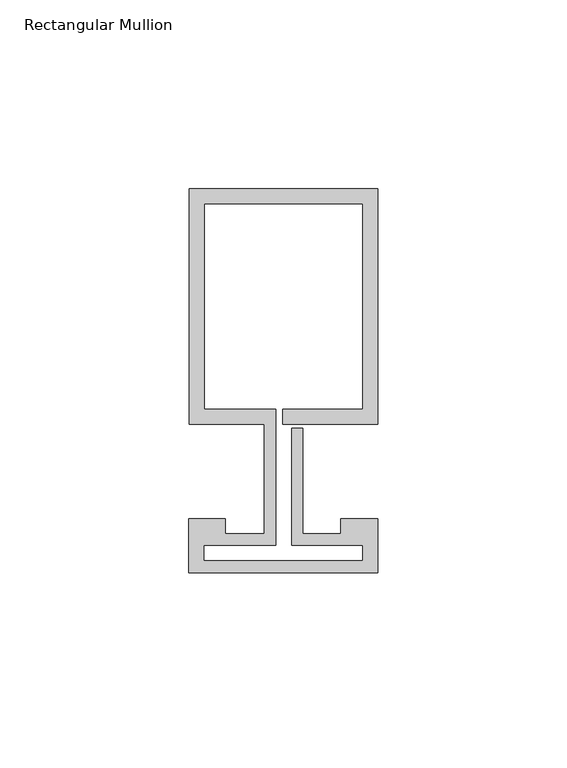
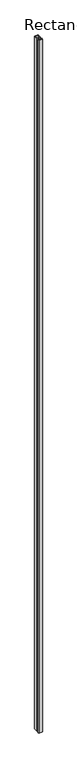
"""IFC4 building model written with IfcOpenShell, lengths in millimetres: member geometry, Rectangular Mullion : Reynaers_CW-50_Mullion-Transom_Vertical_62.5mm_Facecap-02A."""

from ifc_helpers import new_model, si_unit, frame, origin, place, context, project, spatial, polyline, outline, extrude, source, transform, mapped, element, save


def rectangular_mullion_7e8ff3de(model_context):
    return source(origin(), model_context, "Body", "SweptSolid", [
        extrude(outline(polyline([(-24.8004059, 75.0), (25.1995941, 75.0), (25.1995941, 12.5), (0.0, 12.5), (0.0, 16.5), (21.1995941, 16.5), (21.1995941, 71.0), (-20.8004059, 71.0), (-20.8004059, 16.5), (-1.9004059, 16.5), (-1.9004059, -19.5), (-20.994845, -19.5), (-20.994845, -23.7191338), (21.1995941, -23.7191338), (21.1995941, -19.5), (2.2995941, -19.5), (2.2995941, 11.5), (5.2995941, 11.5), (5.2995941, -16.5), (15.2996495, -16.5), (15.2996495, -12.5), (25.1995941, -12.5), (25.1995941, -26.8), (-24.994845, -26.8), (-24.994845, -12.5), (-15.2996495, -12.5), (-15.2996495, -16.5), (-4.9004059, -16.5), (-4.9004059, 12.5), (-24.8004059, 12.5), (-24.8004059, 75.0)])), frame((0.0, 0.0, -10400.0), z_axis=(0.0, 0.0, 1.0), x_axis=(1.0, 0.0, 0.0)), (0.0, 0.0, 1.0), 10400.0),
    ])


if __name__ == "__main__":
    model = new_model("IFC4")
    model_context = context("Model", 3, world=origin())
    ifc_project = project(units=[si_unit("LENGTHUNIT", "METRE", prefix="MILLI")], contexts=[model_context])
    site = spatial("IfcSite", under=ifc_project)
    building = spatial("IfcBuilding", under=site)
    placement = place(None, origin())
    rectangular_mullion_shape = rectangular_mullion_7e8ff3de(model_context)
    element("IfcMember", 1, ObjectType="Rectangular Mullion : Reynaers_CW-50_Mullion-Transom_Vertical_62.5mm_Facecap-02A", at=placement, inside=building, context=model_context, shape_type="MappedRepresentation", body=[
        mapped(rectangular_mullion_shape, transform((0.0, 0.0, 0.0), x_axis=(1.0, 0.0, 0.0), y_axis=(0.0, 1.0, 0.0), z_axis=(0.0, 0.0, 1.0))),
    ])
    save(model, "model.ifc")
